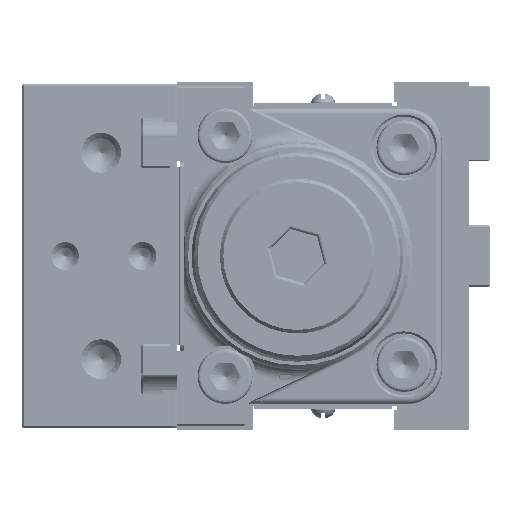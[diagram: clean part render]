
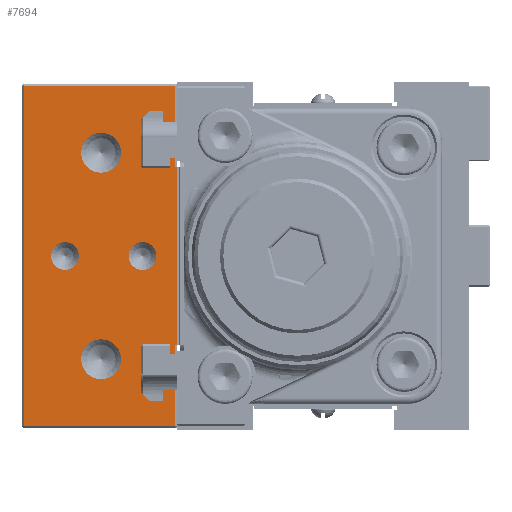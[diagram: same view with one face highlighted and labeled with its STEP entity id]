
A CAD part, left-side view. The second image highlights one B-rep face of the part: STEP entity #7694.
In plain terms, the highlighted planar face has unit normal (-1, 0, 0) as drawn and (0, 1, 0) by its records, which use the part's own axes.
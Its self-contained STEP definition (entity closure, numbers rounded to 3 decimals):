
#7694=ADVANCED_FACE('',(#26638,#26640,#26642,#26644,#26646),#26648,.T.);
#26638=FACE_BOUND('',#26639,.T.);
#26639=EDGE_LOOP('',(#37590,#37591,#37592,#37593,#37594,#37595,#37596,#37597));
#26640=FACE_BOUND('',#26641,.T.);
#26641=EDGE_LOOP('',(#37598));
#26642=FACE_BOUND('',#26643,.T.);
#26643=EDGE_LOOP('',(#37599));
#26644=FACE_BOUND('',#26645,.T.);
#26645=EDGE_LOOP('',(#37600));
#26646=FACE_BOUND('',#26647,.T.);
#26647=EDGE_LOOP('',(#37601));
#26648=PLANE('',#26649);
#26649=AXIS2_PLACEMENT_3D('',#26650,#26651,#26652);
#26650=CARTESIAN_POINT('',(-100.,0.,-45.));
#26651=DIRECTION('',(0.,1.,0.));
#26652=DIRECTION('',(0.,0.,1.));
#37590=ORIENTED_EDGE('',*,*,#44503,.T.);
#37591=ORIENTED_EDGE('',*,*,#44504,.F.);
#37592=ORIENTED_EDGE('',*,*,#44505,.F.);
#37593=ORIENTED_EDGE('',*,*,#44469,.T.);
#37594=ORIENTED_EDGE('',*,*,#44483,.F.);
#37595=ORIENTED_EDGE('',*,*,#44458,.F.);
#37596=ORIENTED_EDGE('',*,*,#44500,.F.);
#37597=ORIENTED_EDGE('',*,*,#44506,.T.);
#37598=ORIENTED_EDGE('',*,*,#44507,.T.);
#37599=ORIENTED_EDGE('',*,*,#44508,.T.);
#37600=ORIENTED_EDGE('',*,*,#44509,.T.);
#37601=ORIENTED_EDGE('',*,*,#44510,.T.);
#44458=EDGE_CURVE('',#51149,#51151,#51152,.T.);
#44469=EDGE_CURVE('',#51171,#51169,#51172,.T.);
#44483=EDGE_CURVE('',#51151,#51169,#51192,.T.);
#44500=EDGE_CURVE('',#51221,#51149,#51223,.T.);
#44503=EDGE_CURVE('',#51227,#51228,#51229,.T.);
#44504=EDGE_CURVE('',#51230,#51228,#51231,.T.);
#44505=EDGE_CURVE('',#51171,#51230,#51232,.T.);
#44506=EDGE_CURVE('',#51221,#51227,#51233,.T.);
#44507=EDGE_CURVE('',#51234,#51234,#51235,.F.);
#44508=EDGE_CURVE('',#51236,#51236,#51237,.F.);
#44509=EDGE_CURVE('',#51238,#51238,#51239,.F.);
#44510=EDGE_CURVE('',#51240,#51240,#51241,.F.);
#51149=VERTEX_POINT('',#172613);
#51151=VERTEX_POINT('',#172617);
#51152=LINE('',#172618,#172619);
#51169=VERTEX_POINT('',#172657);
#51171=VERTEX_POINT('',#172661);
#51172=LINE('',#172662,#172663);
#51192=LINE('',#172713,#172714);
#51221=VERTEX_POINT('',#172778);
#51223=LINE('',#172782,#172783);
#51227=VERTEX_POINT('',#172792);
#51228=VERTEX_POINT('',#172793);
#51229=LINE('',#172794,#172795);
#51230=VERTEX_POINT('',#172797);
#51231=LINE('',#172798,#172799);
#51232=LINE('',#172801,#172802);
#51233=LINE('',#172804,#172805);
#51234=VERTEX_POINT('',#172807);
#51235=CIRCLE('',#172808,4.059);
#51236=VERTEX_POINT('',#172812);
#51237=CIRCLE('',#172813,5.788);
#51238=VERTEX_POINT('',#172817);
#51239=CIRCLE('',#172818,5.788);
#51240=VERTEX_POINT('',#172822);
#51241=CIRCLE('',#172823,4.059);
#172613=CARTESIAN_POINT('',(-75.75,0.,-44.5));
#172617=CARTESIAN_POINT('',(-75.75,0.,-45.1));
#172618=CARTESIAN_POINT('',(-75.75,0.,-44.5));
#172619=VECTOR('',#172620,1.);
#172620=DIRECTION('',(0.,0.,-1.));
#172657=CARTESIAN_POINT('',(-24.25,0.,-45.1));
#172661=CARTESIAN_POINT('',(-24.25,0.,-44.5));
#172662=CARTESIAN_POINT('',(-24.25,0.,-44.5));
#172663=VECTOR('',#172664,1.);
#172664=DIRECTION('',(0.,0.,-1.));
#172713=CARTESIAN_POINT('',(-75.75,0.,-45.1));
#172714=VECTOR('',#172715,1.);
#172715=DIRECTION('',(1.,0.,0.));
#172778=CARTESIAN_POINT('',(-99.5,0.,-44.5));
#172782=CARTESIAN_POINT('',(-99.5,0.,-44.5));
#172783=VECTOR('',#172784,1.);
#172784=DIRECTION('',(1.,0.,0.));
#172792=CARTESIAN_POINT('',(-99.5,0.,-0.5));
#172793=CARTESIAN_POINT('',(-0.5,0.,-0.5));
#172794=CARTESIAN_POINT('',(-99.5,0.,-0.5));
#172795=VECTOR('',#172796,1.);
#172796=DIRECTION('',(1.,0.,0.));
#172797=CARTESIAN_POINT('',(-0.5,0.,-44.5));
#172798=CARTESIAN_POINT('',(-0.5,0.,-44.5));
#172799=VECTOR('',#172800,1.);
#172800=DIRECTION('',(0.,0.,1.));
#172801=CARTESIAN_POINT('',(-24.25,0.,-44.5));
#172802=VECTOR('',#172803,1.);
#172803=DIRECTION('',(1.,0.,0.));
#172804=CARTESIAN_POINT('',(-99.5,0.,-44.5));
#172805=VECTOR('',#172806,1.);
#172806=DIRECTION('',(0.,0.,1.));
#172807=CARTESIAN_POINT('',(-45.941,0.,-35.));
#172808=AXIS2_PLACEMENT_3D('',#172809,#172810,#172811);
#172809=CARTESIAN_POINT('',(-50.,0.,-35.));
#172810=DIRECTION('',(0.,1.,0.));
#172811=DIRECTION('',(1.,0.,0.));
#172812=CARTESIAN_POINT('',(-74.212,0.,-23.));
#172813=AXIS2_PLACEMENT_3D('',#172814,#172815,#172816);
#172814=CARTESIAN_POINT('',(-80.,0.,-23.));
#172815=DIRECTION('',(0.,1.,0.));
#172816=DIRECTION('',(1.,0.,0.));
#172817=CARTESIAN_POINT('',(-14.212,0.,-23.));
#172818=AXIS2_PLACEMENT_3D('',#172819,#172820,#172821);
#172819=CARTESIAN_POINT('',(-20.,0.,-23.));
#172820=DIRECTION('',(0.,1.,0.));
#172821=DIRECTION('',(1.,0.,0.));
#172822=CARTESIAN_POINT('',(-45.941,0.,-12.5));
#172823=AXIS2_PLACEMENT_3D('',#172824,#172825,#172826);
#172824=CARTESIAN_POINT('',(-50.,0.,-12.5));
#172825=DIRECTION('',(0.,1.,0.));
#172826=DIRECTION('',(1.,0.,0.));
